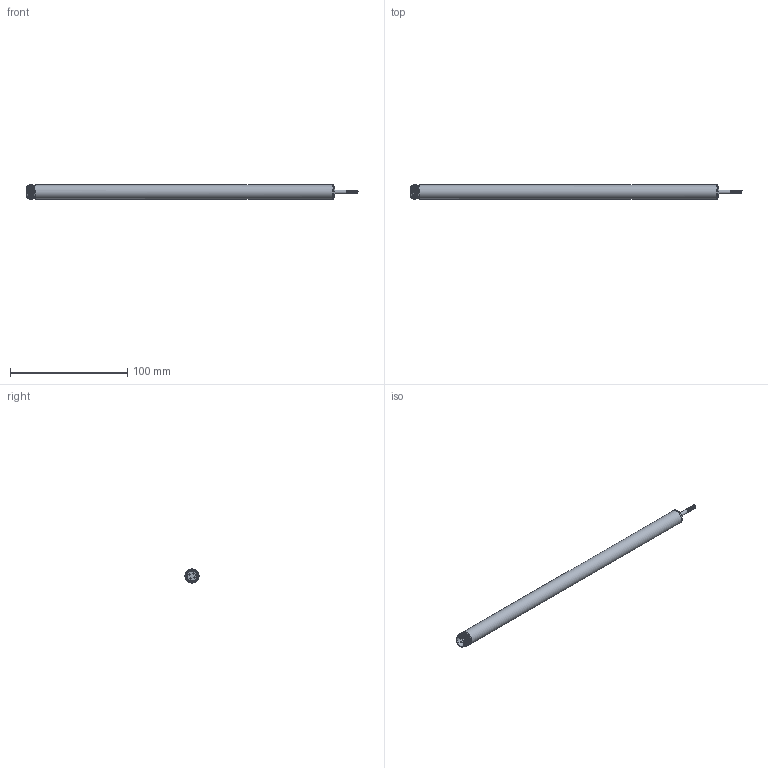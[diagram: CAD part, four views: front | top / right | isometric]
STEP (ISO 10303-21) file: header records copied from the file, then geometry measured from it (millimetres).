
FILE_DESCRIPTION( ( 'STEP AP214' ), '1' );
FILE_NAME( 'N:/Engineering/CAD_Solid/LVDT/SM/Kunden-3D-Modell/SM100-SG-SA.stp', '2011-12-12T13:25:51', ( ' ' ), ( ' ' ), 'XStep 1.0', ' ', ' ' );
FILE_SCHEMA( ( 'CONFIG_CONTROL_DESIGN) ( )' ) );
Length unit declared in the file: metre
Products named in the file (2): 1; 2
Bounding box: 283.1 x 12 x 12 mm (x, y, z)
Surface area: 11764.7 mm2 (no closed solid volume)
Topology: 0 solids, 46 shells, 47 faces, 188 edges, 165 vertices
Faces by surface type: cylinder 19, plane 10, cone 9, bspline 9
Full cylindrical faces by diameter (mm): 1 x4, 2.4 x1, 3 x1, 8.5 x1, 10 x1, 10.6 x2, 12 x2
Entity records: 6054 total; most frequent: CARTESIAN_POINT 4405, DIRECTION 268, ORIENTED_EDGE 152, EDGE_CURVE 152, VERTEX_POINT 152, AXIS2_PLACEMENT_3D 121, CIRCLE 82, FACE_BOUND 77
